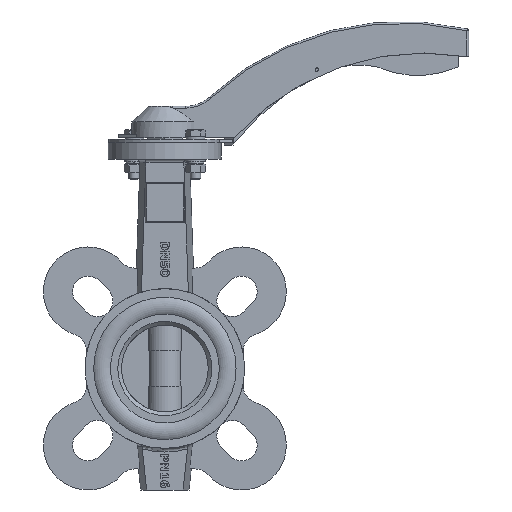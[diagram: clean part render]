
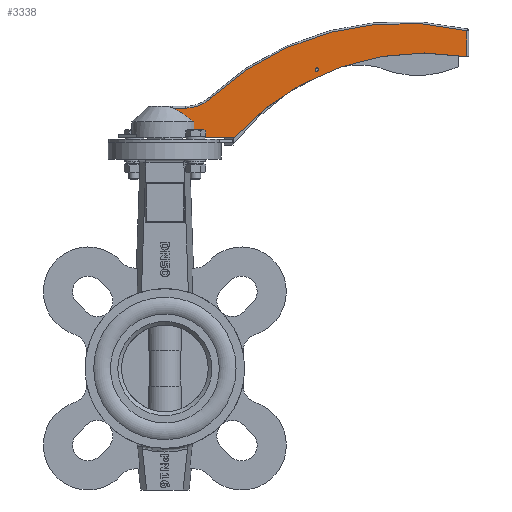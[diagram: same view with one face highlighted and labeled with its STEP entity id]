
A CAD part, left-side view. The second image highlights one B-rep face of the part: STEP entity #3338.
In plain terms, the highlighted planar face has unit normal (-1, 0, 0) as drawn and (0, -1, 0) by its records, which use the part's own axes.
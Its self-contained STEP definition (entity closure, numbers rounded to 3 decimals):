
#3338=ADVANCED_FACE('',(#6834,#6836),#6838,.F.);
#6834=FACE_BOUND('',#6835,.T.);
#6835=EDGE_LOOP('',(#10451,#10452,#10453,#10454,#10455,#10456,#10457,#10458));
#6836=FACE_BOUND('',#6837,.T.);
#6837=EDGE_LOOP('',(#10459));
#6838=PLANE('',#6839);
#6839=AXIS2_PLACEMENT_3D('',#6840,#6841,#6842);
#6840=CARTESIAN_POINT('',(0.,-9.375,0.));
#6841=DIRECTION('',(0.,1.,0.));
#6842=DIRECTION('',(-1.,0.,0.));
#10451=ORIENTED_EDGE('',*,*,#11930,.F.);
#10452=ORIENTED_EDGE('',*,*,#11931,.T.);
#10453=ORIENTED_EDGE('',*,*,#11893,.T.);
#10454=ORIENTED_EDGE('',*,*,#11881,.F.);
#10455=ORIENTED_EDGE('',*,*,#11927,.F.);
#10456=ORIENTED_EDGE('',*,*,#11932,.F.);
#10457=ORIENTED_EDGE('',*,*,#11933,.F.);
#10458=ORIENTED_EDGE('',*,*,#11934,.F.);
#10459=ORIENTED_EDGE('',*,*,#11935,.T.);
#11881=EDGE_CURVE('',#13932,#13934,#13935,.T.);
#11893=EDGE_CURVE('',#13956,#13934,#13957,.T.);
#11927=EDGE_CURVE('',#14014,#13932,#14017,.T.);
#11930=EDGE_CURVE('',#14021,#14022,#14023,.T.);
#11931=EDGE_CURVE('',#14021,#13956,#14024,.T.);
#11932=EDGE_CURVE('',#14025,#14014,#14026,.T.);
#11933=EDGE_CURVE('',#14027,#14025,#14028,.T.);
#11934=EDGE_CURVE('',#14022,#14027,#14029,.T.);
#11935=EDGE_CURVE('',#14030,#14030,#14031,.T.);
#13932=VERTEX_POINT('',#20311);
#13934=VERTEX_POINT('',#20315);
#13935=LINE('',#20316,#20317);
#13956=VERTEX_POINT('',#20364);
#13957=LINE('',#20365,#20366);
#14014=VERTEX_POINT('',#20635);
#14017=CIRCLE('',#20697,146.685);
#14021=VERTEX_POINT('',#20709);
#14022=VERTEX_POINT('',#20710);
#14023=LINE('',#20711,#20712);
#14024=B_SPLINE_CURVE_WITH_KNOTS('',3,
(#20714,#20715,#20716,#20717,#20718,#20719,#20720,#20721,#20722,#20723,#20724,#20725,
#20726,#20727,#20728,#20729,#20730,#20731,#20732,#20733,#20734,#20735,#20736,#20737,
#20738,#20739,#20740,#20741,#20742,#20743,#20744,#20745,#20746,#20747,#20748,#20749,
#20750,#20751,#20752,#20753),
.UNSPECIFIED.,.F.,.F.,
(4,1,1,1,1,1,1,1,1,1,1,1,1,1,1,1,1,1,1,1,1,1,1,1,1,1,1,1,1,1,1,1,1,1,1,1,1,4),
(0.,0.02,0.04,0.06,0.08,0.08,
0.1,0.121,0.141,0.161,0.181,
0.202,0.219,0.224,0.246,0.269,
0.294,0.32,0.357,0.369,0.396,
0.437,0.472,0.507,0.546,0.585,
0.586,0.627,0.67,0.714,0.759,
0.805,0.834,0.853,0.901,0.95,
0.978,1.),
.UNSPECIFIED.);
#14025=VERTEX_POINT('',#20754);
#14026=LINE('',#20755,#20756);
#14027=VERTEX_POINT('',#20758);
#14028=CIRCLE('',#20759,161.707);
#14029=CIRCLE('',#20763,21.);
#14030=VERTEX_POINT('',#20767);
#14031=CIRCLE('',#20768,1.);
#20311=CARTESIAN_POINT('',(40.,-9.375,0.));
#20315=CARTESIAN_POINT('',(16.749,-9.375,0.));
#20316=CARTESIAN_POINT('',(40.,-9.375,0.));
#20317=VECTOR('',#20318,1.);
#20318=DIRECTION('',(-1.,0.,0.));
#20364=CARTESIAN_POINT('',(16.749,-9.375,9.));
#20365=CARTESIAN_POINT('',(16.749,-9.375,9.));
#20366=VECTOR('',#20367,1.);
#20367=DIRECTION('',(0.,0.,-1.));
#20635=CARTESIAN_POINT('',(174.,-9.375,46.665));
#20697=AXIS2_PLACEMENT_3D('',#20698,#20699,#20700);
#20698=CARTESIAN_POINT('',(149.223,-9.375,-97.912));
#20699=DIRECTION('',(0.,-1.,0.));
#20700=DIRECTION('',(0.169,0.,0.986));
#20709=CARTESIAN_POINT('',(4.653,-9.375,17.));
#20710=CARTESIAN_POINT('',(12.009,-9.375,17.));
#20711=CARTESIAN_POINT('',(4.653,-9.375,17.));
#20712=VECTOR('',#20713,1.);
#20713=DIRECTION('',(1.,0.,0.));
#20714=CARTESIAN_POINT('',(4.653,-9.375,17.));
#20715=CARTESIAN_POINT('',(4.742,-9.375,16.963));
#20716=CARTESIAN_POINT('',(4.922,-9.375,16.889));
#20717=CARTESIAN_POINT('',(5.189,-9.375,16.772));
#20718=CARTESIAN_POINT('',(5.455,-9.375,16.652));
#20719=CARTESIAN_POINT('',(5.631,-9.375,16.569));
#20720=CARTESIAN_POINT('',(5.807,-9.375,16.485));
#20721=CARTESIAN_POINT('',(5.983,-9.375,16.4));
#20722=CARTESIAN_POINT('',(6.246,-9.375,16.268));
#20723=CARTESIAN_POINT('',(6.507,-9.375,16.133));
#20724=CARTESIAN_POINT('',(6.768,-9.375,15.995));
#20725=CARTESIAN_POINT('',(7.03,-9.375,15.853));
#20726=CARTESIAN_POINT('',(7.277,-9.375,15.716));
#20727=CARTESIAN_POINT('',(7.455,-9.375,15.614));
#20728=CARTESIAN_POINT('',(7.64,-9.375,15.508));
#20729=CARTESIAN_POINT('',(7.85,-9.375,15.386));
#20730=CARTESIAN_POINT('',(8.143,-9.375,15.212));
#20731=CARTESIAN_POINT('',(8.449,-9.375,15.026));
#20732=CARTESIAN_POINT('',(8.81,-9.375,14.802));
#20733=CARTESIAN_POINT('',(9.118,-9.375,14.607));
#20734=CARTESIAN_POINT('',(9.428,-9.375,14.406));
#20735=CARTESIAN_POINT('',(9.755,-9.375,14.193));
#20736=CARTESIAN_POINT('',(10.168,-9.375,13.918));
#20737=CARTESIAN_POINT('',(10.614,-9.375,13.614));
#20738=CARTESIAN_POINT('',(11.045,-9.375,13.315));
#20739=CARTESIAN_POINT('',(11.495,-9.375,12.998));
#20740=CARTESIAN_POINT('',(11.806,-9.375,12.775));
#20741=CARTESIAN_POINT('',(12.128,-9.375,12.543));
#20742=CARTESIAN_POINT('',(12.459,-9.375,12.303));
#20743=CARTESIAN_POINT('',(12.956,-9.375,11.936));
#20744=CARTESIAN_POINT('',(13.467,-9.375,11.554));
#20745=CARTESIAN_POINT('',(13.992,-9.375,11.156));
#20746=CARTESIAN_POINT('',(14.456,-9.375,10.801));
#20747=CARTESIAN_POINT('',(14.817,-9.375,10.522));
#20748=CARTESIAN_POINT('',(15.184,-9.375,10.237));
#20749=CARTESIAN_POINT('',(15.628,-9.375,9.89));
#20750=CARTESIAN_POINT('',(16.103,-9.375,9.514));
#20751=CARTESIAN_POINT('',(16.477,-9.375,9.217));
#20752=CARTESIAN_POINT('',(16.665,-9.375,9.067));
#20753=CARTESIAN_POINT('',(16.749,-9.375,9.));
#20754=CARTESIAN_POINT('',(174.,-9.375,61.604));
#20755=CARTESIAN_POINT('',(174.,-9.375,61.604));
#20756=VECTOR('',#20757,1.);
#20757=DIRECTION('',(0.,0.,-1.));
#20758=CARTESIAN_POINT('',(26.322,-9.375,22.633));
#20759=AXIS2_PLACEMENT_3D('',#20760,#20761,#20762);
#20760=CARTESIAN_POINT('',(136.531,-9.375,-95.703));
#20761=DIRECTION('',(0.,1.,0.));
#20762=DIRECTION('',(-0.682,0.,0.732));
#20763=AXIS2_PLACEMENT_3D('',#20764,#20765,#20766);
#20764=CARTESIAN_POINT('',(12.009,-9.375,38.));
#20765=DIRECTION('',(0.,-1.,0.));
#20766=DIRECTION('',(0.,0.,-1.));
#20767=CARTESIAN_POINT('',(86.5,-9.375,39.154));
#20768=AXIS2_PLACEMENT_3D('',#20769,#20770,#20771);
#20769=CARTESIAN_POINT('',(87.5,-9.375,39.154));
#20770=DIRECTION('',(0.,1.,0.));
#20771=DIRECTION('',(-1.,0.,0.));
